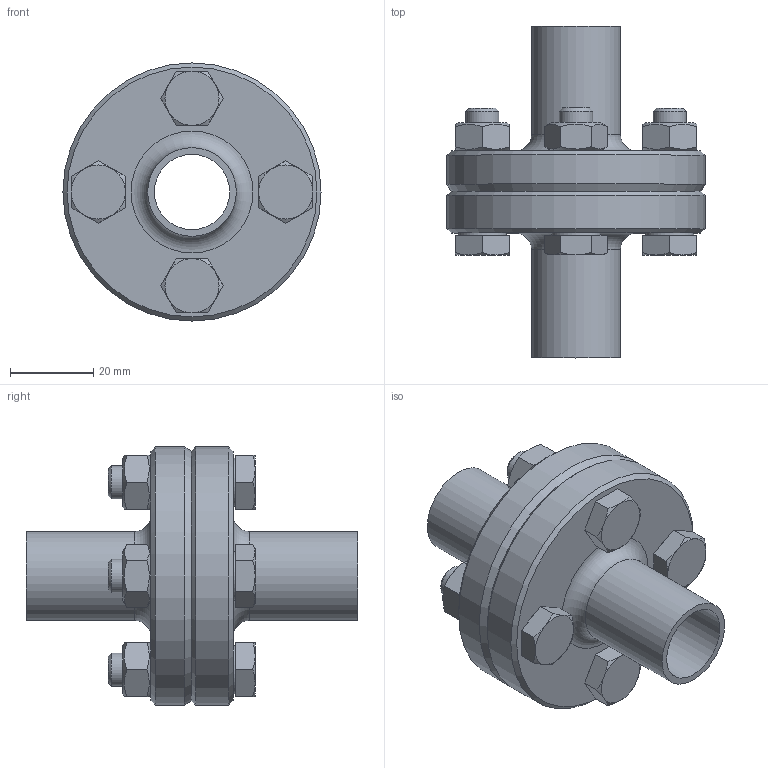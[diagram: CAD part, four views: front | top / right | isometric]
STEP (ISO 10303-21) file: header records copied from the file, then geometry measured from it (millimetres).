
FILE_DESCRIPTION(/* description */ ('DIN11864-2-A_21,3x1,6_L80_Fl62'),/* implementation_level */ '2;1');
FILE_NAME(/* name */ 'DIN11864-2-A_21,3x1,6_L80_Fl62.stp',/* time_stamp */ '2015-01-07T13:14:31+01:00',/* author */ ('DOCKWEILER AG'),/* organization */ ('DOCKWEILER AG'),/* preprocessor_version */ 'ST-DEVELOPER v15.6',/* originating_system */ 'Autodesk Inventor 2015',/* authorisation */ '');
FILE_SCHEMA (('CONFIG_CONTROL_DESIGN'));
Length unit declared in the file: millimetre
Products named in the file (6): N0003_007_003_15; N0003_007_004_15; N005_005_002_001_14; ISO 4032 - M8ISO; ISO 4017 - M8 x 30ISO; N0024_002_002
Assembly tree (11 placements, depth 2):
  N0024_002_002
    N0003_007_003_15
    N0003_007_004_15
    N005_005_002_001_14
    ISO 4032 - M8ISO  x4
    ISO 4017 - M8 x 30ISO  x4
Bounding box: 62 x 79.7 x 62 mm (x, y, z)
Volume: 67381.4 mm3; surface area: 32629 mm2
Topology: 11 solids, 11 shells, 174 faces, 362 edges, 222 vertices
Faces by surface type: plane 82, cone 52, cylinder 28, torus 12
Full cylindrical faces by diameter (mm): 6.647 x4, 8 x4, 9 x8, 11.63 x4, 18.1 x2, 21.3 x2, 30.3 x1, 30.4 x1, 62 x2
Entity records: 2080 total; most frequent: DIRECTION 352, CARTESIAN_POINT 352, ORIENTED_EDGE 228, AXIS2_PLACEMENT_3D 167, EDGE_LOOP 151, EDGE_CURVE 114, VERTEX_POINT 95, FACE_OUTER_BOUND 78
